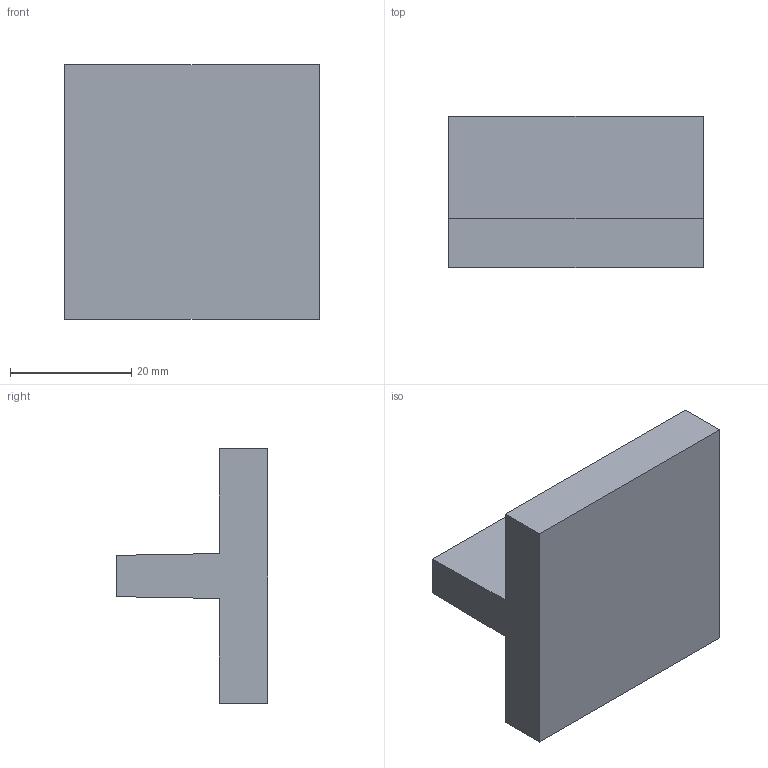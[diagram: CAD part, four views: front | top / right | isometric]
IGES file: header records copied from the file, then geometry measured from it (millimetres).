
Start section: Data from Parasolid IGES Translator 15.0.47, Copyright(c) 2006 Siemens P LM Software. All Rights Reserved.
Global section: file name: 115157.igs; native system:  By UGS Corp.; preprocessor: XPlus GENERIC/IGES 3.0; author: Noname; organization: Noname; date: 20140123.103057; units: millimetre
Bounding box: 42 x 25 x 42 mm (x, y, z)
Surface area: 7289.2 mm2 (no closed solid volume)
Topology: 0 solids, 0 shells, 24 faces, 108 edges, 106 vertices
Faces by surface type: extrusion 18, revolution 6
